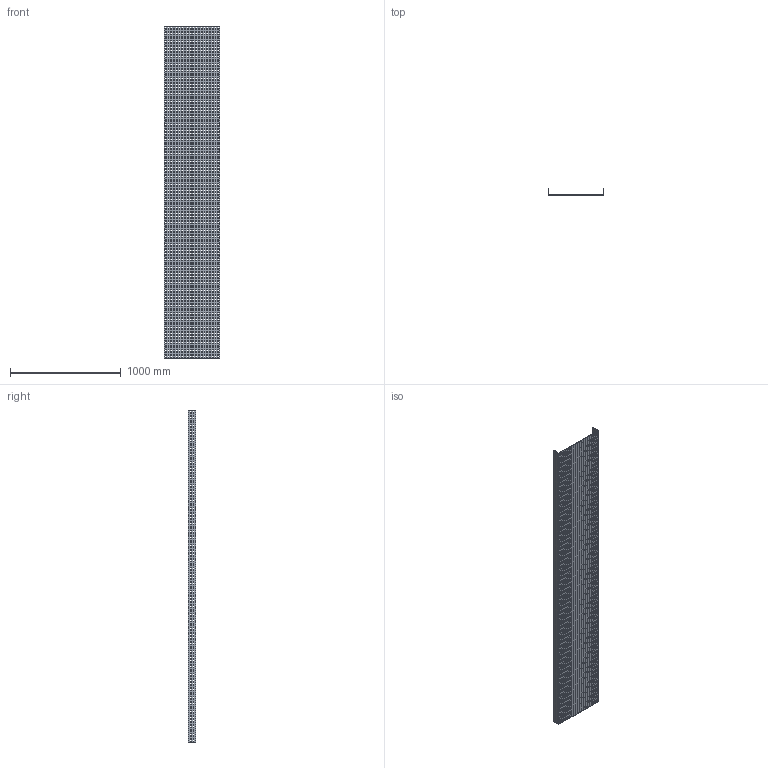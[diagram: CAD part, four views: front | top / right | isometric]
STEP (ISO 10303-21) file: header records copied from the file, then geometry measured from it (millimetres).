
FILE_DESCRIPTION (( 'STEP AP214' ), '1' );
FILE_NAME ('01B3H500.step', '2025-02-21T10:16:34', ( '' ), ( '' ), 'SwSTEP 2.0', 'SolidWorks 2023', '' );
FILE_SCHEMA (( 'AUTOMOTIVE_DESIGN' ));
Length unit declared in the file: millimetre
Products named in the file (1): 01B3H500
Bounding box: 504 x 65.5 x 3000 mm (x, y, z)
Volume: 5535600 mm3; surface area: 3575668 mm2
Topology: 1 solids, 1 shells, 6922 faces, 20760 edges, 13840 vertices
Faces by surface type: plane 6922
Entity records: 235319 total; most frequent: CARTESIAN_POINT 41523, ORIENTED_EDGE 41520, DIRECTION 34606, EDGE_CURVE 20760, VECTOR 20760, LINE 20760, VERTEX_POINT 13840, EDGE_LOOP 10378
